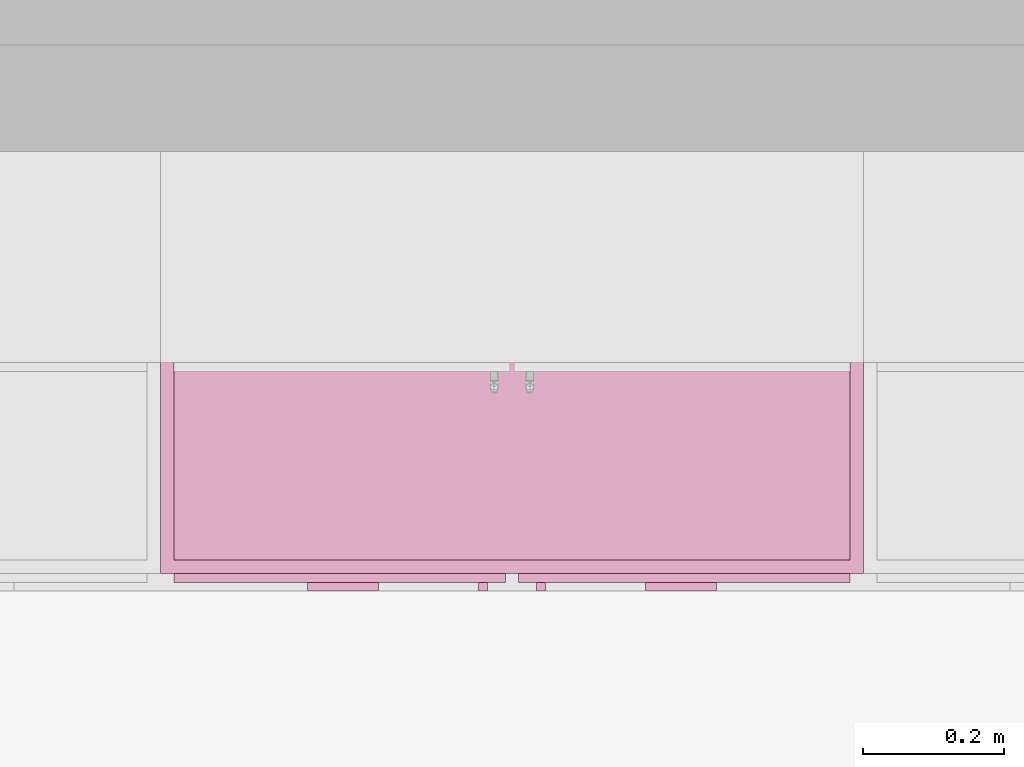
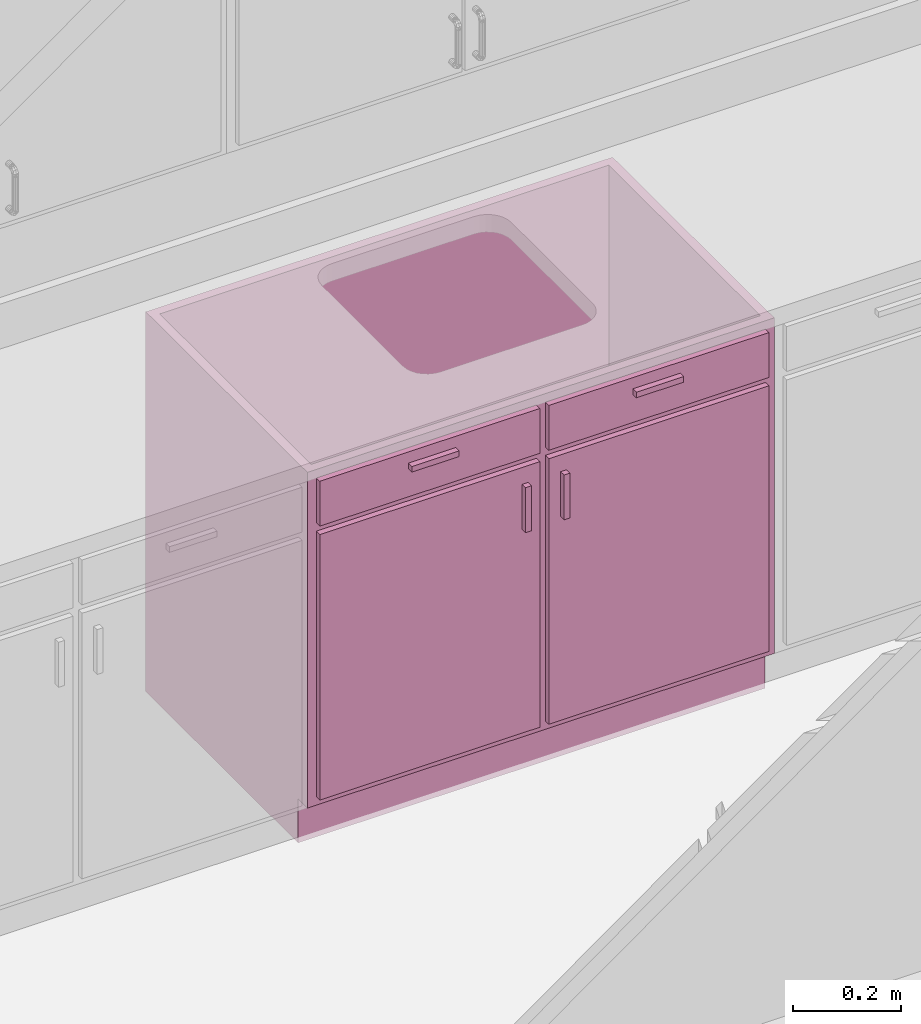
# One storey, part 6 of 14: 1 furnishing.
"""IFC4 building model written with IfcOpenShell, lengths in metres."""

from ifc_helpers import new_model, entity, si_unit, converted_unit, frame, origin, place, context, project, spatial, face_set, surface_model, source, transform, mapped, element, save


model = new_model("IFC4")

# Units and contexts
model_context = context("Model", 3, precision=1e-09, world=origin())
plan_context = context("Plan", 3, precision=1e-09, world=origin())
ifc_project = project(units=[si_unit("LENGTHUNIT", "METRE"), si_unit("AREAUNIT", "SQUARE_METRE"), si_unit("VOLUMEUNIT", "CUBIC_METRE"), converted_unit("PLANEANGLEUNIT", "DEGREE", entity("IfcRatioMeasure", 0.01745329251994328), si_unit("PLANEANGLEUNIT", "RADIAN"), dimensions=[0, 0, 0, 0, 0, 0, 0]), si_unit("TIMEUNIT", "SECOND")], contexts=[model_context, plan_context])

# Site, building, storey, space
site_placement = place(None, origin())
site = spatial("IfcSite", under=ifc_project, at=site_placement, Name="Default", CompositionType="ELEMENT")
building_placement = place(site_placement, origin())
building = spatial("IfcBuilding", under=site, at=building_placement, CompositionType="ELEMENT")
storey_placement = place(building_placement, origin())
storey = spatial("IfcBuildingStorey", under=building, at=storey_placement, Name="Level 1", CompositionType="ELEMENT", Elevation=0.0)
space_placement = place(storey_placement, origin())
space = spatial("IfcSpace", under=storey, at=space_placement, Name="A103", CompositionType="ELEMENT", PredefinedType="INTERNAL")

# Furnishing
shared_shape = source(origin(), model_context, "Body", "SurfaceModel", [
    surface_model("IfcFaceBasedSurfaceModel", [(0.9809499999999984, 0.04445000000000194, 0.8600000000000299), (0.9809499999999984, 0.04445000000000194, 0.0999999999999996), (0.01905000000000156, 0.04445000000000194, 0.0999999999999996), (0.01905000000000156, 0.04445000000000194, 0.8600000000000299), (1.0, 0.02540000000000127, 0.8600000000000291), (0.0, 0.02540000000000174, 0.8600000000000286), (1.0, 0.02540000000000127, 0.0999999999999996), (0.0, 0.02540000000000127, 0.09999999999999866), (0.01905000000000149, 0.606349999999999, 0.8600000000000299), (0.01905000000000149, 0.606349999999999, 0.09999999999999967), (0.01905000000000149, 0.06040000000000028, 0.0999999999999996), (0.0, 0.6253999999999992, 0.8600000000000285), (0.0, 0.6254000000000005, 0.0), (0.0, 0.06040000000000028, 0.0), (0.0, 0.06040000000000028, 0.09999999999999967), (0.9809499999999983, 0.6063499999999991, 0.8600000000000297), (0.9809499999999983, 0.6063499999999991, 0.09999999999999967), (1.0, 0.6253999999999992, 0.8600000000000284), (1.0, 0.6253999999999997, 0.0), (0.9809499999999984, 0.06040000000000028, 0.09999999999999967), (1.0, 0.06040000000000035, 0.09999999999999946), (1.0, 0.06040000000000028, 0.0), (0.3103250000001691, 0.0, 0.815550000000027), (0.3103250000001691, 0.0, 0.8028500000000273), (0.2087250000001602, 0.0, 0.8028500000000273), (0.2087250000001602, 0.0, 0.815550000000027), (0.7912750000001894, 0.0, 0.815550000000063), (0.7912750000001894, 0.0, 0.8028500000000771), (0.6896750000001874, 0.0, 0.8028500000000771), (0.6896750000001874, 0.0, 0.815550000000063), (0.4650750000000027, 0.0, 0.6822000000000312), (0.4650750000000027, 0.0, 0.5806000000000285), (0.4523750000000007, 0.0, 0.5806000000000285), (0.4523750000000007, 0.0, 0.6822000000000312), (0.5476249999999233, 0.0, 0.6822000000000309), (0.5476249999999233, 0.0, 0.5806000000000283), (0.5349249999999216, 0.0, 0.5806000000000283), (0.5349249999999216, 0.0, 0.6822000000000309), (0.3103250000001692, 0.01270000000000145, 0.815550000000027), (0.3103250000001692, 0.01270000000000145, 0.8028500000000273), (0.2087250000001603, 0.01270000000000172, 0.8028500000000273), (0.2087250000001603, 0.01270000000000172, 0.815550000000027), (0.7912750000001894, 0.01269999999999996, 0.815550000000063), (0.7912750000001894, 0.01269999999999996, 0.8028500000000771), (0.6896750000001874, 0.01270000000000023, 0.8028500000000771), (0.6896750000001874, 0.01270000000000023, 0.815550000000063), (0.4650750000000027, 0.0127000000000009, 0.6822000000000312), (0.4650750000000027, 0.0127000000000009, 0.5806000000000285), (0.4523750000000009, 0.0127000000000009, 0.5806000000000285), (0.4523750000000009, 0.0127000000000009, 0.6822000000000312), (0.5476249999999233, 0.01270000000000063, 0.6822000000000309), (0.5476249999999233, 0.01270000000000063, 0.5806000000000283), (0.5349249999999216, 0.01270000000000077, 0.5806000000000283), (0.5349249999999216, 0.01270000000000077, 0.6822000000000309), (0.4904749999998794, 0.0127000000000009, 0.840950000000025), (0.4904749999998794, 0.0127000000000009, 0.7393500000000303), (0.01905000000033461, 0.01270000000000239, 0.7393500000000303), (0.01905000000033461, 0.01270000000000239, 0.840950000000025), (0.9809500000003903, 0.01269999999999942, 0.8409500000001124), (0.9809500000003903, 0.01269999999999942, 0.7393500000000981), (0.509524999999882, 0.0127000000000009, 0.7393500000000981), (0.509524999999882, 0.0127000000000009, 0.8409500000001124), (0.4904749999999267, 0.0127000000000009, 0.7203000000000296), (0.4904749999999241, 0.0127000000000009, 0.119049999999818), (0.01905000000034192, 0.01270000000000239, 0.119049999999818), (0.01905000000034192, 0.01270000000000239, 0.7203000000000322), (0.9809500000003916, 0.01269999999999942, 0.7203000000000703), (0.9809500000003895, 0.01269999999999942, 0.1190499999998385), (0.5095249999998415, 0.0127000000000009, 0.1190499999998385), (0.5095249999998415, 0.0127000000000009, 0.7203000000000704), (0.4904749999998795, 0.02540000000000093, 0.840950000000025), (0.4904749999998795, 0.02540000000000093, 0.7393500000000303), (0.01905000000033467, 0.02540000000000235, 0.7393500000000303), (0.01905000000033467, 0.02540000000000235, 0.840950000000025), (0.9809500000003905, 0.02539999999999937, 0.8409500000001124), (0.9809500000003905, 0.02539999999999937, 0.7393500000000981), (0.5095249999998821, 0.02540000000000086, 0.7393500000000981), (0.5095249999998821, 0.02540000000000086, 0.8409500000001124), (0.4904749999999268, 0.02540000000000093, 0.7203000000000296), (0.4904749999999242, 0.02540000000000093, 0.119049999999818), (0.01905000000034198, 0.02540000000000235, 0.119049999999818), (0.01905000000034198, 0.02540000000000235, 0.7203000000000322), (0.9809500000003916, 0.02539999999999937, 0.7203000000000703), (0.9809500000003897, 0.02539999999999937, 0.1190499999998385), (0.5095249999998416, 0.02540000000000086, 0.1190499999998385), (0.5095249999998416, 0.02540000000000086, 0.7203000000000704), (0.9809499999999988, 0.6063499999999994, 0.1190499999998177), (0.9809499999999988, 0.04445000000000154, 0.1190499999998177), (0.01905000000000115, 0.04445000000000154, 0.1190499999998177), (0.01905000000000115, 0.6063499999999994, 0.1190499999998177), (0.9809499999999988, 0.6063499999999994, 0.09999999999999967), (0.9809499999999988, 0.04445000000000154, 0.09999999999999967), (0.01905000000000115, 0.04445000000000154, 0.09999999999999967), (0.01905000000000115, 0.6063499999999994, 0.09999999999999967)], [face_set([[[0, 1, 2, 3]], [[0, 4, 5, 3]], [[4, 6, 7, 5]], [[2, 1, 6, 7]], [[3, 8, 9, 10, 2]], [[5, 11, 8, 3]], [[7, 5, 11, 12, 13, 14]], [[2, 7, 14, 10]], [[8, 15, 16, 9]], [[11, 17, 15, 8]], [[12, 11, 17, 18]], [[1, 19, 16, 15, 0]], [[0, 15, 17, 4]], [[4, 6, 20, 21, 18, 17]], [[6, 1, 19, 20]], [[10, 9, 16, 19]], [[18, 21, 13, 12]], [[13, 14, 10, 19, 20, 21]]]), face_set([[[22, 23, 24, 25]], [[26, 27, 28, 29]], [[30, 31, 32, 33]], [[34, 35, 36, 37]], [[38, 39, 40, 41]], [[42, 43, 44, 45]], [[46, 47, 48, 49]], [[50, 51, 52, 53]], [[25, 41, 38, 22]], [[24, 40, 41, 25]], [[23, 24, 40, 39]], [[22, 23, 39, 38]], [[29, 45, 42, 26]], [[28, 44, 45, 29]], [[27, 28, 44, 43]], [[26, 27, 43, 42]], [[33, 49, 46, 30]], [[32, 48, 49, 33]], [[31, 32, 48, 47]], [[30, 31, 47, 46]], [[37, 53, 50, 34]], [[36, 52, 53, 37]], [[35, 36, 52, 51]], [[34, 35, 51, 50]]]), face_set([[[54, 55, 56, 57]], [[58, 59, 60, 61]], [[62, 63, 64, 65]], [[66, 67, 68, 69]], [[70, 71, 72, 73]], [[74, 75, 76, 77]], [[78, 79, 80, 81]], [[82, 83, 84, 85]], [[57, 73, 70, 54]], [[56, 57, 73, 72]], [[55, 56, 72, 71]], [[54, 55, 71, 70]], [[61, 77, 74, 58]], [[60, 76, 77, 61]], [[59, 60, 76, 75]], [[58, 59, 75, 74]], [[65, 81, 78, 62]], [[64, 65, 81, 80]], [[63, 64, 80, 79]], [[62, 63, 79, 78]], [[69, 85, 82, 66]], [[68, 84, 85, 69]], [[67, 68, 84, 83]], [[66, 67, 83, 82]]]), face_set([[[86, 87, 88, 89]], [[90, 91, 92, 93]], [[89, 86, 90, 93]], [[88, 89, 93, 92]], [[87, 91, 92, 88]], [[86, 87, 91, 90]]])]),
])
furnishing_placement = place(space_placement, frame((2.465999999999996, -10.99540000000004, 0.0)))
element("IfcFurnishingElement", 1, at=furnishing_placement, inside=space, Name="M_Base Cabinet-Double Door & 2 Drawer:1000mm:1000mm", ObjectType="1000mm", context=model_context, shape_type="MappedRepresentation", body=[
    mapped(shared_shape, transform((0.0, 0.0, 0.0), scale=1.0)),
])

save(model, "model.ifc")
